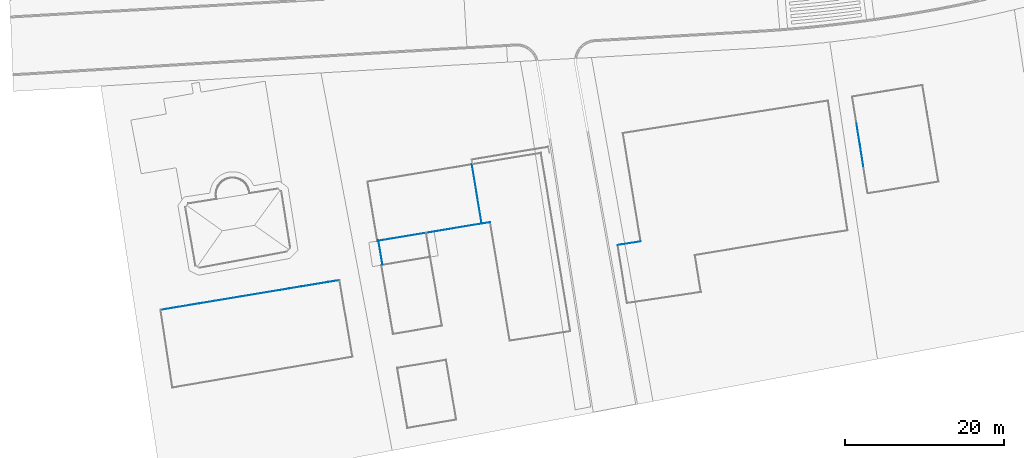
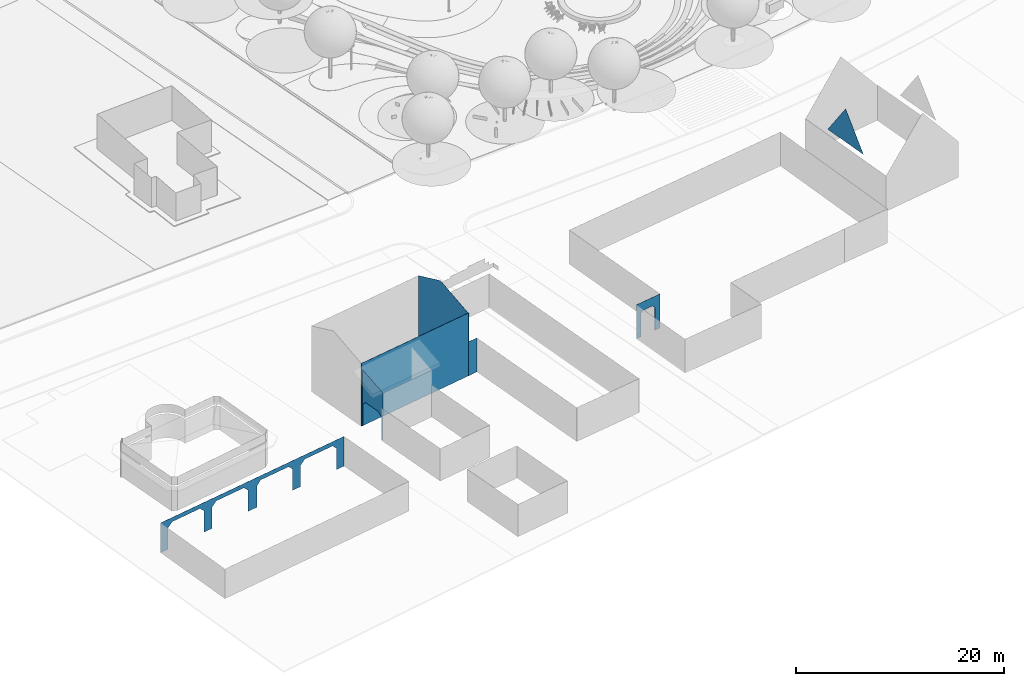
# One storey, part 49 of 75: 7 walls.
"""IFC2X3 building model written with IfcOpenShell, lengths in metres."""

from ifc_helpers import new_model, entity, si_unit, converted_unit, derived_unit, direction, frame, origin, place, context, subcontext, project, spatial, faceted_brep, material, layer, layer_set, type_object, element, save


model = new_model("IFC2X3")

# Units and contexts
model_context = context("Model", 3, precision=1e-05, world=origin(), true_north=direction((6.123031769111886e-17, 1.0)))
body_context = subcontext(model_context, "Body", "Model", "MODEL_VIEW")
ifc_project = project(units=[si_unit("LENGTHUNIT", "METRE"), si_unit("AREAUNIT", "SQUARE_METRE"), si_unit("VOLUMEUNIT", "CUBIC_METRE"), converted_unit("PLANEANGLEUNIT", "DEGREE", entity("IfcRatioMeasure", 0.017453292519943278), si_unit("PLANEANGLEUNIT", "RADIAN"), dimensions=[0, 0, 0, 0, 0, 0, 0]), si_unit("MASSUNIT", "GRAM", prefix="KILO"), derived_unit("MASSDENSITYUNIT", [(si_unit("MASSUNIT", "GRAM", prefix="KILO"), 1), (si_unit("LENGTHUNIT", "METRE"), -3)]), derived_unit("IONCONCENTRATIONUNIT", [(si_unit("MASSUNIT", "GRAM", prefix="KILO"), 1), (si_unit("LENGTHUNIT", "METRE"), -3)]), derived_unit("MOMENTOFINERTIAUNIT", [(si_unit("LENGTHUNIT", "METRE"), 4)]), si_unit("TIMEUNIT", "SECOND"), si_unit("FREQUENCYUNIT", "HERTZ"), si_unit("THERMODYNAMICTEMPERATUREUNIT", "DEGREE_CELSIUS"), derived_unit("THERMALTRANSMITTANCEUNIT", [(si_unit("MASSUNIT", "GRAM", prefix="KILO"), 1), (si_unit("THERMODYNAMICTEMPERATUREUNIT", "KELVIN"), -1), (si_unit("TIMEUNIT", "SECOND"), -3)]), derived_unit("THERMALCONDUCTANCEUNIT", [(si_unit("MASSUNIT", "GRAM", prefix="KILO"), 1), (si_unit("THERMODYNAMICTEMPERATUREUNIT", "KELVIN"), -1), (si_unit("TIMEUNIT", "SECOND"), -3), (si_unit("LENGTHUNIT", "METRE"), 1)]), derived_unit("VOLUMETRICFLOWRATEUNIT", [(si_unit("LENGTHUNIT", "METRE"), 3), (si_unit("TIMEUNIT", "SECOND"), -1)]), derived_unit("MASSFLOWRATEUNIT", [(si_unit("MASSUNIT", "GRAM", prefix="KILO"), 1), (si_unit("TIMEUNIT", "SECOND"), -1)]), derived_unit("ROTATIONALFREQUENCYUNIT", [(si_unit("TIMEUNIT", "SECOND"), -1)]), si_unit("ELECTRICCURRENTUNIT", "AMPERE"), si_unit("ELECTRICVOLTAGEUNIT", "VOLT"), si_unit("POWERUNIT", "WATT"), si_unit("FORCEUNIT", "NEWTON", prefix="KILO"), si_unit("ILLUMINANCEUNIT", "LUX"), si_unit("LUMINOUSFLUXUNIT", "LUMEN"), si_unit("LUMINOUSINTENSITYUNIT", "CANDELA"), derived_unit("USERDEFINED", [(si_unit("MASSUNIT", "GRAM", prefix="KILO"), -1), (si_unit("LENGTHUNIT", "METRE"), -2), (si_unit("TIMEUNIT", "SECOND"), 3), (si_unit("LUMINOUSFLUXUNIT", "LUMEN"), 1)]), derived_unit("USERDEFINED", [(si_unit("MASSUNIT", "GRAM", prefix="KILO"), 1), (si_unit("TIMEUNIT", "SECOND"), -3), (si_unit("LENGTHUNIT", "METRE"), 3), (si_unit("ELECTRICCURRENTUNIT", "AMPERE"), -2)]), derived_unit("SOUNDPOWERUNIT", [(si_unit("MASSUNIT", "GRAM", prefix="KILO"), 1), (si_unit("TIMEUNIT", "SECOND"), -3), (si_unit("LENGTHUNIT", "METRE"), 2)]), derived_unit("SOUNDPRESSUREUNIT", [(si_unit("MASSUNIT", "GRAM", prefix="KILO"), 1), (si_unit("LENGTHUNIT", "METRE"), -1), (si_unit("TIMEUNIT", "SECOND"), -2)]), derived_unit("LINEARVELOCITYUNIT", [(si_unit("LENGTHUNIT", "METRE"), 1), (si_unit("TIMEUNIT", "SECOND"), -1)]), si_unit("PRESSUREUNIT", "PASCAL"), derived_unit("USERDEFINED", [(si_unit("MASSUNIT", "GRAM", prefix="KILO"), 1), (si_unit("LENGTHUNIT", "METRE"), -2), (si_unit("TIMEUNIT", "SECOND"), -2)]), derived_unit("LINEARFORCEUNIT", [(si_unit("MASSUNIT", "GRAM", prefix="KILO"), 1), (si_unit("TIMEUNIT", "SECOND"), -2)]), derived_unit("PLANARFORCEUNIT", [(si_unit("MASSUNIT", "GRAM", prefix="KILO"), 1), (si_unit("LENGTHUNIT", "METRE"), -1), (si_unit("TIMEUNIT", "SECOND"), -2)]), derived_unit("SPECIFICHEATCAPACITYUNIT", [(si_unit("THERMODYNAMICTEMPERATUREUNIT", "KELVIN"), -1), (si_unit("LENGTHUNIT", "METRE"), 2), (si_unit("TIMEUNIT", "SECOND"), -2)]), derived_unit("HEATINGVALUEUNIT", [(si_unit("LENGTHUNIT", "METRE"), 2), (si_unit("TIMEUNIT", "SECOND"), -2)]), derived_unit("VAPORPERMEABILITYUNIT", [(si_unit("LENGTHUNIT", "METRE"), -1), (si_unit("TIMEUNIT", "SECOND"), 1)]), derived_unit("DYNAMICVISCOSITYUNIT", [(si_unit("MASSUNIT", "GRAM", prefix="KILO"), 1), (si_unit("TIMEUNIT", "SECOND"), -1), (si_unit("LENGTHUNIT", "METRE"), -1)]), derived_unit("THERMALEXPANSIONCOEFFICIENTUNIT", [(si_unit("THERMODYNAMICTEMPERATUREUNIT", "KELVIN"), -1)]), derived_unit("MODULUSOFELASTICITYUNIT", [(si_unit("MASSUNIT", "GRAM", prefix="KILO"), 1), (si_unit("LENGTHUNIT", "METRE"), -1), (si_unit("TIMEUNIT", "SECOND"), -2)]), derived_unit("ISOTHERMALMOISTURECAPACITYUNIT", [(si_unit("LENGTHUNIT", "METRE"), 3), (si_unit("MASSUNIT", "GRAM", prefix="KILO"), -1)]), derived_unit("MOISTUREDIFFUSIVITYUNIT", [(si_unit("TIMEUNIT", "SECOND"), -1), (si_unit("LENGTHUNIT", "METRE"), 2)])], contexts=[model_context])

# Site, building, storey
site_placement = place(None, origin())
site = spatial("IfcSite", under=ifc_project, at=site_placement, Name="Default", CompositionType="ELEMENT")
building_placement = place(site_placement, origin())
building = spatial("IfcBuilding", under=site, at=building_placement, Name="Projeto", CompositionType="ELEMENT")
storey_placement = place(building_placement, origin())
storey = spatial("IfcBuildingStorey", under=building, at=storey_placement, Name="Nível 1", CompositionType="ELEMENT", Elevation=0.0)

# Walls
ifc_material = material(Name="Metal")
ifc_layer = layer(ifc_material, 0.01)
ifc_layer_set = layer_set([ifc_layer], Name="Parede básica:JA_Aluminio")
wall_type = type_object("IfcWallType", Name="Parede básica:JA_Aluminio", PredefinedType="STANDARD", material=ifc_layer_set)
wall_1_placement = place(storey_placement, frame((12.91611217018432, -44.187534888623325, 4.705073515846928), z_axis=(0.0, 0.0, 1.0), x_axis=(-0.15726055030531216, 0.9875571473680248, 0.0)))
element("IfcWall", 1, at=wall_1_placement, inside=storey, type_object=wall_type, Name="Parede básica:JA_Aluminio", ObjectType="Parede básica:JA_Aluminio", context=body_context, shape_type="Brep", body=[
    faceted_brep([(5.441719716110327, -0.005000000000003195, 0.01191753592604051), (2.7250322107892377, -0.005000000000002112, 3.891769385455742), (0.008344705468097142, -0.005000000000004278, 0.01191753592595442), (0.0, 0.004999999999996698, 0.0), (2.725032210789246, 0.004999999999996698, 3.891769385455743), (5.4500644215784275, 0.004999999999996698, 0.0)], [[[0, 1, 2]], [[3, 4, 5]], [[4, 1, 0, 5]], [[1, 4, 3, 2]], [[0, 2, 3, 5]]]),
])
wall_2_placement = place(storey_placement, frame((-15.15748892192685, -53.65639358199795, -0.1), z_axis=(0.0, 0.0, 1.0), x_axis=(-0.9876680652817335, -0.15656242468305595, 0.0)))
element("IfcWall", 2, at=wall_2_placement, inside=storey, type_object=wall_type, Name="Parede básica:JA_Aluminio", ObjectType="Parede básica:JA_Aluminio", context=body_context, shape_type="Brep", body=[
    faceted_brep([(4.740295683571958e-05, -0.005000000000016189, 0.0), (0.6653562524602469, -0.005000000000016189, 0.0), (0.6653562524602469, -0.005000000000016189, 2.6999999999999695), (0.9653562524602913, -0.005000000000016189, 3.0), (2.0966439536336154, -0.005000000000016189, 3.0), (2.3966439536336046, -0.005000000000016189, 2.6999999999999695), (2.3966439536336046, -0.005000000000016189, 0.0), (2.9315391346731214, -0.005000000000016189, 0.0), (2.9315391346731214, -0.005000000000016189, 4.0), (4.740295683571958e-05, -0.005000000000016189, 4.0), (0.0, 0.0049999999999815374, 0.0), (0.0, 0.0049999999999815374, 4.0), (2.9215230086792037, 0.0049999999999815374, 4.0), (2.9315230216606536, 0.004999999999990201, 4.0), (2.9315230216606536, 0.004999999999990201, 0.0), (2.9215230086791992, 0.0049999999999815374, 0.0), (2.3966439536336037, 0.0049999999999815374, 0.0), (2.3966439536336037, 0.0049999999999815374, 2.6999999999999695), (2.0966439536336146, 0.0049999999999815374, 3.0), (0.9653562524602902, 0.0049999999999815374, 3.0), (0.6653562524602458, 0.0049999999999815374, 2.6999999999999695), (0.6653562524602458, 0.0049999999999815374, 0.0)], [[[0, 1, 2, 3, 4, 5, 6, 7, 8, 9]], [[10, 11, 12, 13, 14, 15, 16, 17, 18, 19, 20, 21]], [[8, 7, 14, 13]], [[0, 9, 11, 10]], [[9, 8, 13, 12, 11]], [[1, 0, 10, 21]], [[2, 1, 21, 20]], [[3, 2, 20, 19]], [[4, 3, 19, 18]], [[5, 4, 18, 17]], [[6, 5, 17, 16]], [[7, 6, 16, 15, 14]]]),
])
wall_3_placement = place(storey_placement, frame((-35.19118992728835, -51.40697941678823, -0.1), z_axis=(0.0, 0.0, 1.0), x_axis=(-0.163231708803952, 0.9865877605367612, 0.0)))
element("IfcWall", 3, at=wall_3_placement, inside=storey, type_object=wall_type, Name="Parede básica:JA_Aluminio", ObjectType="Parede básica:JA_Aluminio", context=body_context, shape_type="Brep", body=[
    faceted_brep([(5.0401521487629e-06, -0.004999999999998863, 0.0), (7.555621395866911, -0.004999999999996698, 0.0), (7.555621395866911, -0.004999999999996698, 7.713138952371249), (4.210303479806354, -0.004999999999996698, 8.930735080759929), (5.0401521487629e-06, -0.004999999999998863, 7.398312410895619), (0.0, 0.0049999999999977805, 0.0), (0.0, 0.0049999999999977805, 7.3983139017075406), (4.210298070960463, 0.0049999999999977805, 8.930736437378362), (7.555621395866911, 0.004999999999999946, 7.7131383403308), (7.555621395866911, 0.004999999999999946, 0.0), (7.55562139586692, 0.0, 0.0)], [[[0, 1, 2, 3, 4]], [[5, 6, 7, 8, 9]], [[4, 3, 7, 6]], [[3, 2, 8, 7]], [[1, 0, 5, 9, 10]], [[2, 1, 10, 9, 8]], [[0, 4, 6, 5]]]),
])
wall_4_placement = place(storey_placement, frame((-35.18543916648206, -51.41109081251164, -0.1), z_axis=(0.0, 0.0, 1.0), x_axis=(-0.9865053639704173, -0.16372894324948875, 0.0)))
element("IfcWall", 4, at=wall_4_placement, inside=storey, type_object=wall_type, Name="Parede básica:JA_Aluminio", ObjectType="Parede básica:JA_Aluminio", context=body_context, shape_type="Brep", body=[
    faceted_brep([(0.0, -0.004999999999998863, 0.0), (0.010000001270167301, -0.004999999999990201, 0.0), (13.192737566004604, -0.004999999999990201, 0.0), (13.202737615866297, -0.004999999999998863, 0.0), (13.332701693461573, -0.004999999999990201, 0.0), (13.342701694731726, -0.004999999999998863, 0.0), (13.342701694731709, -0.004999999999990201, 7.400301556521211), (0.0, -0.004999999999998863, 7.398312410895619), (5.04015215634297e-06, 0.005000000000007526, 0.0), (5.04015215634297e-06, 0.005000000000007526, 7.394672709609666), (13.342706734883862, 0.004999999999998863, 7.3966618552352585), (13.342706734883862, 0.004999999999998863, 0.0), (13.20270603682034, 0.005000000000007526, 0.0), (13.192705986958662, 0.005000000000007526, 0.0), (7.109365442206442, 0.004999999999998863, 0.0), (7.099365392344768, 0.005000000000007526, 0.0)], [[[0, 1, 2, 3, 4, 5, 6, 7]], [[8, 9, 10, 11, 12, 13, 14, 15]], [[6, 5, 11, 10]], [[7, 6, 10, 9]], [[5, 4, 3, 2, 1, 0, 8, 15, 14, 13, 12, 11]], [[0, 7, 9, 8]]]),
])
wall_5_placement = place(storey_placement, frame((-34.12702373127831, -51.23542705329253, -0.1), z_axis=(0.0, 0.0, 1.0), x_axis=(-0.9865053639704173, -0.16372894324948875, 0.0)))
element("IfcWall", 5, at=wall_5_placement, inside=storey, type_object=wall_type, Name="Parede básica:JA_Aluminio", ObjectType="Parede básica:JA_Aluminio", context=body_context, shape_type="Brep", body=[
    faceted_brep([(0.0, -0.004999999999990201, 0.0), (1.0728937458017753, -0.004999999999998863, 0.0), (1.0728937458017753, -0.004999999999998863, 7.398312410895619), (1.007941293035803, -0.004999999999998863, 7.398302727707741), (1.007941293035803, -0.004999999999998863, 4.0), (0.0, -0.004999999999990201, 4.0), (5.040152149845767e-06, 0.004999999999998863, 0.0), (5.040152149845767e-06, 0.004999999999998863, 4.0), (1.0079412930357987, 0.005000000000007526, 4.0), (1.0079412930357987, 0.005000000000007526, 7.394663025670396), (1.0728987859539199, 0.005000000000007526, 7.394672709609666), (1.0728987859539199, 0.005000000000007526, 0.0)], [[[0, 1, 2, 3, 4, 5]], [[6, 7, 8, 9, 10, 11]], [[1, 0, 6, 11]], [[0, 5, 7, 6]], [[2, 1, 11, 10]], [[3, 9, 8, 4]], [[3, 2, 10, 9]], [[5, 4, 8, 7]]]),
])
wall_6_placement = place(storey_placement, frame((-48.216778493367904, -53.50270271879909, -0.1), z_axis=(0.0, 0.0, 1.0), x_axis=(0.16684340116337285, -0.9859834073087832, 0.0)))
element("IfcWall", 6, at=wall_6_placement, inside=storey, type_object=wall_type, Name="Parede básica:JA_Aluminio", ObjectType="Parede básica:JA_Aluminio", context=body_context, shape_type="Brep", body=[
    faceted_brep([(0.0, -0.004999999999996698, 6.651884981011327), (0.0, -0.004999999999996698, 0.0), (0.06520558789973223, -0.005000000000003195, 0.0), (0.06520558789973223, -0.005000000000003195, 6.628679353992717), (0.0, 0.004999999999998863, 0.0), (0.0652371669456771, 0.004999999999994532, 0.0), (0.0, 0.004999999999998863, 6.651884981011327), (0.06523716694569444, 0.004999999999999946, 6.6286681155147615)], [[[0, 1, 2, 3]], [[1, 4, 5, 2]], [[1, 0, 6, 4]], [[6, 0, 3, 7]], [[3, 2, 5, 7]], [[4, 6, 7, 5]]]),
    faceted_brep([(3.154996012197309, 0.005000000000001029, 5.5290723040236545), (3.154996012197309, 0.005000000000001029, 0.0), (2.939789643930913, 0.0049999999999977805, 0.0), (2.939789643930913, 0.0049999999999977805, 2.6000000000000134), (2.5397896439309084, 0.004999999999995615, 3.0), (0.5499999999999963, 0.0049999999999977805, 3.0), (0.15000000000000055, 0.005000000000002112, 2.6000000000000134), (0.15000000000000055, 0.005000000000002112, 0.0), (0.07523721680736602, 0.004999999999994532, 0.0), (0.07523721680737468, 0.0049999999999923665, 6.625109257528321), (3.1549685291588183, -0.004999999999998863, 5.529082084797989), (3.1549685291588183, -0.004999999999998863, 5.50363970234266), (3.1549685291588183, -0.004999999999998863, 0.0), (0.07520563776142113, -0.005000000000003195, 0.0), (0.07520563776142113, -0.005000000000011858, 6.625120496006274), (0.1499999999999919, -0.004999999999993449, 2.6000000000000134), (0.1499999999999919, -0.004999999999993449, 0.0), (0.5499999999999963, -0.0049999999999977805, 3.0), (2.5397896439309, -0.004999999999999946, 3.0), (2.939789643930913, -0.0049999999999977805, 2.6000000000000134), (2.939789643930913, -0.0049999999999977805, 0.0)], [[[0, 1, 2, 3, 4, 5, 6, 7, 8, 9]], [[10, 11, 12, 1, 0]], [[13, 14, 9, 8]], [[15, 16, 7, 6]], [[17, 15, 6, 5]], [[18, 17, 5, 4]], [[19, 18, 4, 3]], [[20, 19, 3, 2]], [[12, 20, 2, 1]], [[10, 0, 9, 14]], [[7, 16, 13, 8]], [[12, 11, 10, 14, 13, 16, 15, 17, 18, 19, 20]]]),
])
wall_7_placement = place(storey_placement, frame((-53.10691305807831, -58.53353254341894, -0.1), z_axis=(0.0, 0.0, 1.0), x_axis=(-0.9864382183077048, -0.16413299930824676, 0.0)))
element("IfcWall", 7, at=wall_7_placement, inside=storey, type_object=wall_type, Name="Parede básica:JA_Aluminio", ObjectType="Parede básica:JA_Aluminio", context=body_context, shape_type="Brep", body=[
    faceted_brep([(2.748303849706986e-05, -0.004999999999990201, 0.0), (0.9352058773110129, -0.004999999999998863, 0.0), (0.9352058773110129, -0.004999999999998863, 2.4999999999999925), (1.435205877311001, -0.004999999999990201, 3.0), (4.912546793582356, -0.004999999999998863, 3.0), (5.412546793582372, -0.004999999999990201, 2.4999999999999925), (5.412546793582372, -0.004999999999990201, 0.0), (5.912546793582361, -0.004999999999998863, 0.0), (6.41254679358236, -0.004999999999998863, 0.0), (6.41254679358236, -0.004999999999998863, 2.499999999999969), (6.912546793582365, -0.004999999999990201, 3.0), (10.38988770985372, -0.004999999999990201, 3.0), (10.889887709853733, -0.004999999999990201, 2.499999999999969), (10.889887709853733, -0.004999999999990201, 0.0), (11.985283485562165, -0.004999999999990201, 0.0), (11.985283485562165, -0.004999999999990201, 2.4999999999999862), (12.485283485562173, -0.004999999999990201, 3.0), (15.962624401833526, -0.004999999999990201, 3.0), (16.462624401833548, -0.004999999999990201, 2.4999999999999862), (16.462624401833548, -0.004999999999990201, 0.0), (16.96262440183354, -0.004999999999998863, 0.0), (17.462624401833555, -0.004999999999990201, 0.0), (17.462624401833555, -0.004999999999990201, 2.500000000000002), (17.962624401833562, -0.004999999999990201, 3.0), (21.439965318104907, -0.004999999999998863, 3.0), (21.93996531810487, -0.004999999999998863, 2.500000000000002), (21.93996531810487, -0.004999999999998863, 0.0), (22.875844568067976, -0.004999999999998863, 0.0), (22.875844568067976, -0.004999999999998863, 3.499999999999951), (2.748303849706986e-05, -0.004999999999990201, 3.499999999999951), (0.0, 0.005000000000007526, 0.0), (0.0, 0.005000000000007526, 3.499999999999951), (0.01000003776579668, 0.005000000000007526, 3.499999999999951), (22.865979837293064, 0.004999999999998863, 3.499999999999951), (22.87598076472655, 0.004999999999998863, 3.499999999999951), (22.87598076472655, 0.004999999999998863, 0.0), (22.865979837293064, 0.004999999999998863, 0.0), (21.93996531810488, 0.005000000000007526, 0.0), (21.93996531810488, 0.005000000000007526, 2.500000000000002), (21.43996531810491, 0.005000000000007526, 3.0), (17.962624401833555, 0.005000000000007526, 3.0), (17.46262440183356, 0.004999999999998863, 2.500000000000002), (17.46262440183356, 0.004999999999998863, 0.0), (16.962624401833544, 0.005000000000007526, 0.0), (16.462624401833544, 0.005000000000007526, 0.0), (16.462624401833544, 0.005000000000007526, 2.4999999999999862), (15.962624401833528, 0.004999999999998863, 3.0), (12.485283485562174, 0.005000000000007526, 3.0), (11.985283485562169, 0.005000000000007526, 2.4999999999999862), (11.985283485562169, 0.005000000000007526, 0.0), (10.889887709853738, 0.005000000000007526, 0.0), (10.889887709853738, 0.005000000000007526, 2.499999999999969), (10.389887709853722, 0.004999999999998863, 3.0), (6.9125467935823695, 0.004999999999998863, 3.0), (6.4125467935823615, 0.005000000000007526, 2.499999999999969), (6.4125467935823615, 0.005000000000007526, 0.0), (5.912546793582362, 0.004999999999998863, 0.0), (5.412546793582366, 0.004999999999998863, 0.0), (5.412546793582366, 0.004999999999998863, 2.4999999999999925), (4.912546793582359, 0.004999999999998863, 3.0), (1.4352058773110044, 0.004999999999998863, 3.0), (0.9352058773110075, 0.005000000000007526, 2.4999999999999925), (0.9352058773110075, 0.005000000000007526, 0.0), (0.01000003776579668, 0.005000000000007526, 0.0)], [[[0, 1, 2, 3, 4, 5, 6, 7, 8, 9, 10, 11, 12, 13, 14, 15, 16, 17, 18, 19, 20, 21, 22, 23, 24, 25, 26, 27, 28, 29]], [[30, 31, 32, 33, 34, 35, 36, 37, 38, 39, 40, 41, 42, 43, 44, 45, 46, 47, 48, 49, 50, 51, 52, 53, 54, 55, 56, 57, 58, 59, 60, 61, 62, 63]], [[0, 29, 31, 30]], [[28, 27, 35, 34]], [[29, 28, 34, 33, 32, 31]], [[1, 0, 30, 63, 62]], [[2, 1, 62, 61]], [[3, 2, 61, 60]], [[4, 3, 60, 59]], [[5, 4, 59, 58]], [[6, 5, 58, 57]], [[7, 6, 57, 56]], [[8, 7, 56, 55]], [[9, 8, 55, 54]], [[10, 9, 54, 53]], [[11, 10, 53, 52]], [[12, 11, 52, 51]], [[13, 12, 51, 50]], [[14, 13, 50, 49]], [[15, 14, 49, 48]], [[16, 15, 48, 47]], [[17, 16, 47, 46]], [[18, 17, 46, 45]], [[19, 18, 45, 44]], [[20, 19, 44, 43]], [[21, 20, 43, 42]], [[22, 21, 42, 41]], [[23, 22, 41, 40]], [[24, 23, 40, 39]], [[25, 24, 39, 38]], [[26, 25, 38, 37]], [[27, 26, 37, 36, 35]]]),
])

save(model, "model.ifc")
